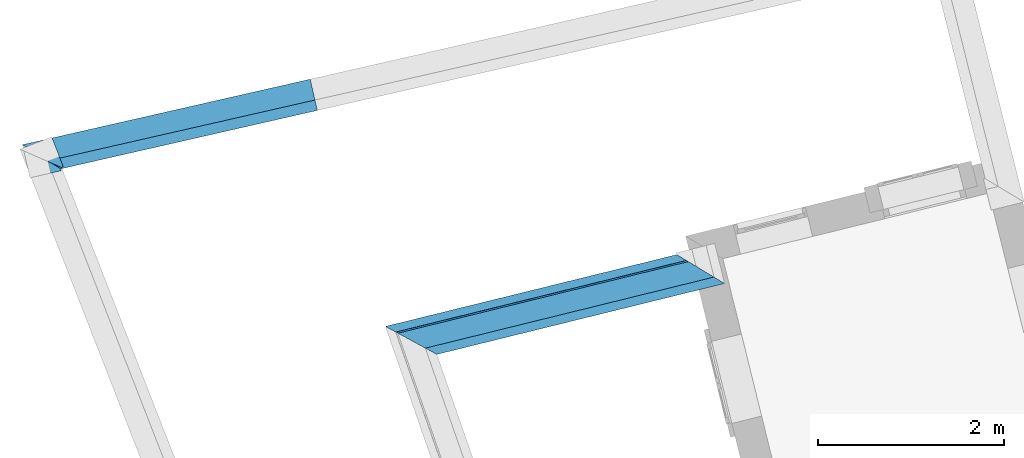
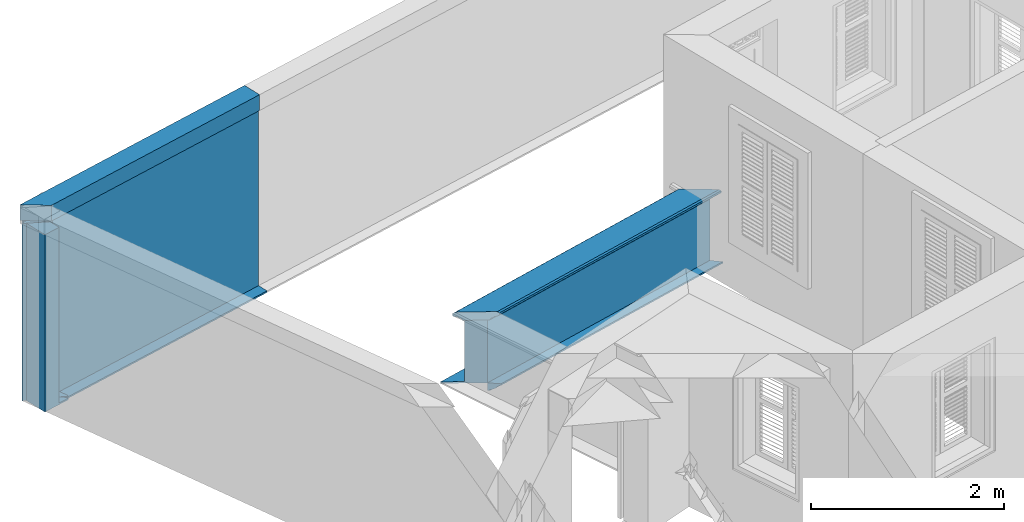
# One storey, part 5 of 8: 7 walls.
"""IFC4 building model written with IfcOpenShell, lengths in metres."""

import ifcopenshell
import ifcopenshell.guid

model = None  # the IFC model being written
_history = None  # IfcOwnerHistory: only IFC2X3 demands one
_inside = {}  # id of a spatial element -> (the spatial element, [elements in it])
_under = {}  # id of a project, library or spatial element -> (it, [spatial elements below it])
_declared = {}  # id of a project -> (the project, [libraries it declares])
_typed = {}  # id of a type object -> (the type object, [elements of that type])
_made_of = {}  # id of a material, layer set ... -> (it, [elements and type objects made of it])


def new_model(schema):
    """Start an empty IFC model of exactly this schema.

    Asked for "IFC4X3", IfcOpenShell would pick the latest addendum, in which some entities
    have other attributes; the version numbers below select the first issue.
    IFC2X3 requires an IfcOwnerHistory on every rooted entity: one is made here for all.
    """
    global model, _history
    if schema == "IFC4X3":
        model = ifcopenshell.file(schema_version=(4, 3, 0, 0))
    else:
        model = ifcopenshell.file(schema=schema)
    _inside.clear()
    _under.clear()
    _declared.clear()
    _typed.clear()
    _made_of.clear()
    _history = None
    if model.schema == "IFC2X3":
        org = make("IfcOrganization", Name="unknown")
        user = make(
            "IfcPersonAndOrganization",
            ThePerson=make("IfcPerson", FamilyName="unknown"),
            TheOrganization=org,
        )
        app = make(
            "IfcApplication",
            ApplicationDeveloper=org,
            Version="unknown",
            ApplicationFullName="unknown",
            ApplicationIdentifier="unknown",
        )
        _history = make(
            "IfcOwnerHistory",
            OwningUser=user,
            OwningApplication=app,
            ChangeAction="ADDED",
            CreationDate=0,
        )
    return model


def make(cls, **values):
    """One entity of the class cls with the attributes given. An attribute that is None is left unset."""
    return model.create_entity(
        cls, **{name: value for name, value in values.items() if value is not None}
    )


def rooted(cls, **values):
    """An entity with a GlobalId (a new one), such as an element, a storey or a relation."""
    return make(cls, GlobalId=ifcopenshell.guid.new(), OwnerHistory=_history, **values)


def si_unit(unit_type, name, prefix=None):
    """IfcSIUnit, for example si_unit("LENGTHUNIT", "METRE", prefix="MILLI")."""
    return make("IfcSIUnit", UnitType=unit_type, Prefix=prefix, Name=name)


def assignment(units):
    """IfcUnitAssignment: the units of a project."""
    return None if units is None else make("IfcUnitAssignment", Units=units)


def point(xyz):
    """IfcCartesianPoint."""
    return None if xyz is None else make("IfcCartesianPoint", Coordinates=xyz)


def direction(xyz):
    """IfcDirection."""
    return None if xyz is None else make("IfcDirection", DirectionRatios=xyz)


def frame(location, z_axis=None, x_axis=None):
    """IfcAxis2Placement3D, a coordinate frame: its origin and axes. An axis left out is left unset."""
    return make(
        "IfcAxis2Placement3D",
        Location=point(location),
        Axis=direction(z_axis),
        RefDirection=direction(x_axis),
    )


def origin_with_axes():
    """The frame at (0, 0, 0) with the z axis (0, 0, 1) and the x axis (1, 0, 0) written out."""
    return frame((0.0, 0.0, 0.0), z_axis=(0.0, 0.0, 1.0), x_axis=(1.0, 0.0, 0.0))


def place(relative_to, where):
    """IfcLocalPlacement: puts the frame where relative to a parent placement (None: the world)."""
    return make(
        "IfcLocalPlacement", PlacementRelTo=relative_to, RelativePlacement=where
    )


def context(
    kind, dimensions, precision=None, world=None, true_north=None, identifier=None
):
    """IfcGeometricRepresentationContext, for example the 3D "Model" context."""
    return make(
        "IfcGeometricRepresentationContext",
        ContextIdentifier=identifier,
        ContextType=kind,
        CoordinateSpaceDimension=dimensions,
        Precision=precision,
        WorldCoordinateSystem=world,
        TrueNorth=true_north,
    )


def subcontext(parent, identifier, kind, view, scale=None):
    """IfcGeometricRepresentationSubContext, for example "Body" below "Model"."""
    return make(
        "IfcGeometricRepresentationSubContext",
        ContextIdentifier=identifier,
        ContextType=kind,
        ParentContext=parent,
        TargetScale=scale,
        TargetView=view,
    )


def project(units=None, contexts=None):
    """IfcProject with its units and contexts."""
    return rooted(
        "IfcProject",
        Name="project",
        RepresentationContexts=contexts,
        UnitsInContext=assignment(units),
    )


def spatial(cls, under=None, at=None, **own):
    """A site, building, storey or space (cls), placed at a placement, below another one or the project."""
    s = rooted(cls, ObjectPlacement=at, **own)
    if under is not None:
        _under.setdefault(under.id(), (under, []))[1].append(s)
    return s


def polyline(points):
    """IfcPolyline through the points."""
    return make("IfcPolyline", Points=[point(p) for p in points])


def outline(outer, holes=None, kind="AREA"):
    """IfcArbitraryClosedProfileDef: a profile drawn as a closed curve; with holes, ...WithVoids."""
    if holes is None:
        return make("IfcArbitraryClosedProfileDef", ProfileType=kind, OuterCurve=outer)
    return make(
        "IfcArbitraryProfileDefWithVoids",
        ProfileType=kind,
        OuterCurve=outer,
        InnerCurves=holes,
    )


def extrude(swept, where, along, depth):
    """IfcExtrudedAreaSolid: the profile swept, set in the frame where, extruded along a direction by depth."""
    return make(
        "IfcExtrudedAreaSolid",
        SweptArea=swept,
        Position=where,
        ExtrudedDirection=direction(along),
        Depth=depth,
    )


def clip(a, b, op="DIFFERENCE"):
    """IfcBooleanClippingResult: the solid a cut by the half space b."""
    return make(
        "IfcBooleanClippingResult", Operator=op, FirstOperand=a, SecondOperand=b
    )


def halfspace(plane, agree):
    """IfcHalfSpaceSolid: all space on one side of the plane z = 0 of the frame plane."""
    return make(
        "IfcHalfSpaceSolid",
        BaseSurface=make("IfcPlane", Position=plane),
        AgreementFlag=agree,
    )


def shape(context_of_items, identifier, shape_type, items):
    """IfcShapeRepresentation: the items that make up one representation, for example the "Body"."""
    return make(
        "IfcShapeRepresentation",
        ContextOfItems=context_of_items,
        RepresentationIdentifier=identifier,
        RepresentationType=shape_type,
        Items=items,
    )


def material_profile(
    of_material, cross_section, Name=None, Category=None, Priority=None
):
    """IfcMaterialProfile: a cross section and its material."""
    return make(
        "IfcMaterialProfile",
        Name=Name,
        Material=of_material,
        Profile=cross_section,
        Priority=Priority,
        Category=Category,
    )


def profile_set(profiles, Name=None, composite=None):
    """IfcMaterialProfileSet."""
    return make(
        "IfcMaterialProfileSet",
        Name=Name,
        MaterialProfiles=profiles,
        CompositeProfile=composite,
    )


def profile_usage(for_profile_set, cardinal=None, extent=None):
    """IfcMaterialProfileSetUsage: how a profile set lies along its element."""
    return make(
        "IfcMaterialProfileSetUsage",
        ForProfileSet=for_profile_set,
        CardinalPoint=cardinal,
        ReferenceExtent=extent,
    )


def made_of(thing, what):
    """Note that an element or type object is made of a material, layer set ...; save() writes the relation."""
    if what is not None:
        _made_of.setdefault(what.id(), (what, []))[1].append(thing)
    return thing


def type_object(cls, material=None, **own):
    """A type object (cls), such as IfcWallType, which elements share."""
    return made_of(rooted(cls, **own), material)


def element(
    cls,
    number,
    at=None,
    inside=None,
    cuts=None,
    type_object=None,
    material=None,
    context=None,
    identifier="Body",
    shape_type=None,
    held_by="IfcProductDefinitionShape",
    body=None,
    shapes=None,
    **own,
):
    """One element of the class cls, such as IfcWall. Its Tag is "e" and its number.

    at: its placement. inside: the storey or other place that contains it. cuts: it is an
    opening in that element (IfcRelVoidsElement). A single representation is given by context,
    identifier, shape_type and body (its items); several are given by shapes. held_by: the class
    of the entity that holds the representations. save() writes the other relations.
    """
    e = rooted(cls, Tag="e%d" % number, ObjectPlacement=at, **own)
    if body is not None:
        shapes = [shape(context, identifier, shape_type, body)]
    if shapes is not None:
        e.Representation = make(held_by, Representations=shapes)
    if inside is not None:
        _inside.setdefault(inside.id(), (inside, []))[1].append(e)
    if cuts is not None:
        rooted(
            "IfcRelVoidsElement", RelatingBuildingElement=cuts, RelatedOpeningElement=e
        )
    if type_object is not None:
        _typed.setdefault(type_object.id(), (type_object, []))[1].append(e)
    return made_of(e, material)


def aggregate(whole, parts):
    """IfcRelAggregates: a whole, such as a stair, and the parts it consists of."""
    return rooted("IfcRelAggregates", RelatingObject=whole, RelatedObjects=parts)


def save(model, path):
    """Write the relations noted so far, then the file.

    IfcRelAggregates (storeys below a building ...), IfcRelContainedInSpatialStructure (elements
    in a storey), IfcRelDefinesByType, IfcRelAssociatesMaterial and IfcRelDeclares: one each for
    every whole, place, type object, material and project.
    """
    for whole, parts in _under.values():
        aggregate(whole, parts)
    for where, things in _inside.values():
        rooted(
            "IfcRelContainedInSpatialStructure",
            RelatedElements=things,
            RelatingStructure=where,
        )
    for kind, things in _typed.values():
        rooted("IfcRelDefinesByType", RelatedObjects=things, RelatingType=kind)
    for what, things in _made_of.values():
        rooted("IfcRelAssociatesMaterial", RelatedObjects=things, RelatingMaterial=what)
    for by, libraries in _declared.values():
        rooted("IfcRelDeclares", RelatingContext=by, RelatedDefinitions=libraries)
    model.write(path)


model = new_model("IFC4")

# Units and contexts
model_context = context("Model", 3, world=origin_with_axes())
body_context = subcontext(model_context, "Body", "Model", "MODEL_VIEW")
ifc_project = project(units=[si_unit("PLANEANGLEUNIT", "RADIAN"), si_unit("MASSUNIT", "GRAM", prefix="KILO"), si_unit("FORCEUNIT", "NEWTON", prefix="KILO"), si_unit("LENGTHUNIT", "METRE"), si_unit("AREAUNIT", "SQUARE_METRE"), si_unit("VOLUMEUNIT", "CUBIC_METRE")], contexts=[model_context, model_context])

# Site, building, storey
site_placement = place(None, origin_with_axes())
site = spatial("IfcSite", under=ifc_project, at=site_placement, Name="Site plot-1", CompositionType="ELEMENT")
building_placement = place(None, origin_with_axes())
building = spatial("IfcBuilding", under=site, at=building_placement, Name="Building plot-1", CompositionType="ELEMENT")
storey_placement = place(None, frame((0.0, 0.0, 2.7), z_axis=(0.0, 0.0, 1.0), x_axis=(1.0, 0.0, 0.0)))
storey = spatial("IfcBuildingStorey", under=building, at=storey_placement, Name="plot-1 1", CompositionType="ELEMENT", Elevation=2.7)

# Walls
ifc_material_profile_1 = material_profile(None, outline(polyline([(0.25, 0.0), (0.25, 2.245), (0.05, 2.245), (0.05, 0.02), (-0.08, 0.02), (-0.08, 0.0), (0.25, 0.0)])))
ifc_profile_set_1 = profile_set([ifc_material_profile_1])
ifc_profile_usage_1 = profile_usage(ifc_profile_set_1)
wall_type_1 = type_object("IfcWallType", Name="parapet street_0", PredefinedType="PARAPET", material=ifc_profile_set_1)
wall_1_placement = place(storey_placement, frame((-6.25392166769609, 24.6400204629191, 0.0), z_axis=(0.975027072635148, 0.222086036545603, 0.0), x_axis=(-0.222086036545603, 0.975027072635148, 0.0)))
element("IfcWall", 1, at=wall_1_placement, inside=storey, type_object=wall_type_1, material=ifc_profile_usage_1, Name="parapet street_0", context=body_context, shape_type="Clipping", body=[
    clip(clip(extrude(outline(polyline([(0.25, 0.0), (0.25, 2.245), (0.05, 2.245), (0.05, 0.02), (-0.08, 0.02), (-0.08, 0.0), (0.25, 0.0)])), origin_with_axes(), (0.0, 0.0, 1.0), 4.91052155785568), halfspace(frame((0.0, 0.0, 3.91052155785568), z_axis=(-1.73807115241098e-14, 0.0, -1.0), x_axis=(0.0, 1.0, 0.0)), True)), halfspace(frame((0.0, 0.0, 1.0), z_axis=(-0.707106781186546, 0.0, -0.707106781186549), x_axis=(0.0, 1.0, 0.0)), False)),
])
ifc_profile_usage_2 = profile_usage(ifc_profile_set_1)
wall_2_placement = place(storey_placement, frame((-5.03459995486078, 23.789576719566, 0.0), z_axis=(-0.222086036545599, 0.975027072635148, 0.0), x_axis=(-0.975027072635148, -0.222086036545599, 0.0)))
element("IfcWall", 2, at=wall_2_placement, inside=storey, type_object=wall_type_1, material=ifc_profile_usage_2, Name="parapet street_0", context=body_context, shape_type="Clipping", body=[
    clip(clip(extrude(outline(polyline([(0.25, 0.0), (0.25, 2.245), (0.05, 2.245), (0.05, 0.02), (-0.08, 0.02), (-0.08, 0.0), (0.25, 0.0)])), origin_with_axes(), (0.0, 0.0, 1.0), 2.1), halfspace(frame((0.0, 0.0, 1.1), z_axis=(0.707106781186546, 0.0, -0.707106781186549), x_axis=(0.0, 1.0, 0.0)), True)), halfspace(frame((0.0, 0.0, 1.0), z_axis=(1.04899068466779e-15, 0.0, -1.0), x_axis=(0.0, 1.0, 0.0)), False)),
])
ifc_material_profile_2 = material_profile(None, outline(polyline([(0.265, 2.245), (0.265, 2.445), (0.035, 2.445), (0.035, 2.245), (0.265, 2.245)])))
ifc_profile_set_2 = profile_set([ifc_material_profile_2])
ifc_profile_usage_3 = profile_usage(ifc_profile_set_2)
wall_type_2 = type_object("IfcWallType", Name="parapet street_1", PredefinedType="PARAPET", material=ifc_profile_set_2)
wall_3_placement = place(storey_placement, frame((-6.25392166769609, 24.6400204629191, 0.0), z_axis=(0.975027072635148, 0.222086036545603, 0.0), x_axis=(-0.222086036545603, 0.975027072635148, 0.0)))
element("IfcWall", 3, at=wall_3_placement, inside=storey, type_object=wall_type_2, material=ifc_profile_usage_3, Name="parapet street_1", context=body_context, shape_type="Clipping", body=[
    clip(clip(extrude(outline(polyline([(0.265, 2.245), (0.265, 2.445), (0.035, 2.445), (0.035, 2.245), (0.265, 2.245)])), origin_with_axes(), (0.0, 0.0, 1.0), 4.91052155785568), halfspace(frame((0.0, 0.0, 3.91052155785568), z_axis=(-1.73807115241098e-14, 0.0, -1.0), x_axis=(0.0, 1.0, 0.0)), True)), halfspace(frame((0.0, 0.0, 1.0), z_axis=(-0.707106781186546, 0.0, -0.707106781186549), x_axis=(0.0, 1.0, 0.0)), False)),
])
ifc_material_profile_3 = material_profile(None, outline(polyline([(0.25, 0.0), (0.25, 2.245), (0.05, 2.245), (0.05, 0.02), (-0.08, 0.02), (-0.08, 0.0), (0.25, 0.0)])))
ifc_profile_set_3 = profile_set([ifc_material_profile_3])
ifc_profile_usage_4 = profile_usage(ifc_profile_set_3)
wall_type_3 = type_object("IfcWallType", Name="parapet party_0", PredefinedType="PARAPET", material=ifc_profile_set_3)
wall_4_placement = place(storey_placement, frame((-6.21055159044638, 24.4987674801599, 0.0), z_axis=(0.931656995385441, 0.363339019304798, 0.0), x_axis=(-0.363339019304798, 0.931656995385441, 0.0)))
element("IfcWall", 4, at=wall_4_placement, inside=storey, type_object=wall_type_3, material=ifc_profile_usage_4, Name="parapet party_0", context=body_context, shape_type="Clipping", body=[
    clip(clip(extrude(outline(polyline([(0.25, 0.0), (0.25, 2.245), (0.05, 2.245), (0.05, 0.02), (-0.08, 0.02), (-0.08, 0.0), (0.25, 0.0)])), origin_with_axes(), (0.0, 0.0, 1.0), 2.1), halfspace(frame((0.0, 0.0, 1.1), z_axis=(3.82856869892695e-16, 0.0, -1.0), x_axis=(0.0, 1.0, 0.0)), True)), halfspace(frame((0.0, 0.0, 1.0), z_axis=(-0.707106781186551, 0.0, -0.707106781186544), x_axis=(0.0, 1.0, 0.0)), False)),
])
ifc_material_profile_4 = material_profile(None, outline(polyline([(0.25, 0.0), (0.25, 0.795), (0.09, 0.795), (0.09, 0.02), (-0.08, 0.02), (-0.08, 0.0), (0.25, 0.0)])))
ifc_profile_set_4 = profile_set([ifc_material_profile_4])
ifc_profile_usage_5 = profile_usage(ifc_profile_set_4)
wall_type_4 = type_object("IfcWallType", Name="parapet internal_0", PredefinedType="PARAPET", material=ifc_profile_set_4)
wall_5_placement = place(storey_placement, frame((2.51228879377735, 24.0602596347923, 0.0), z_axis=(-0.970961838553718, -0.239234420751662, 0.0), x_axis=(0.239234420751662, -0.970961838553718, 0.0)))
element("IfcWall", 5, at=wall_5_placement, inside=storey, type_object=wall_type_4, material=ifc_profile_usage_5, Name="parapet internal_0", context=body_context, shape_type="Clipping", body=[
    clip(clip(extrude(outline(polyline([(0.25, 0.0), (0.25, 0.795), (0.09, 0.795), (0.09, 0.02), (-0.08, 0.02), (-0.08, 0.0), (0.25, 0.0)])), origin_with_axes(), (0.0, 0.0, 1.0), 5.22215081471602), halfspace(frame((0.0, 0.0, 4.22215081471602), z_axis=(-0.73910981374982, 0.0, -0.673584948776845), x_axis=(0.0, 1.0, 0.0)), True)), halfspace(frame((0.0, 0.0, 1.0), z_axis=(-0.707106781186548, 0.0, -0.707106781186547), x_axis=(0.0, 1.0, 0.0)), False)),
])
ifc_material_profile_5 = material_profile(None, outline(polyline([(0.265, 0.795), (0.268, 0.807), (0.274, 0.816), (0.283, 0.822), (0.295, 0.825), (0.295, 0.84), (0.305, 0.84), (0.317, 0.842), (0.326, 0.849), (0.333, 0.858), (0.335, 0.87), (0.333, 0.882), (0.326, 0.891), (0.317, 0.898), (0.305, 0.9), (0.035, 0.9), (0.023, 0.898), (0.014, 0.891), (0.007, 0.882), (0.005, 0.87), (0.007, 0.858), (0.014, 0.849), (0.023, 0.842), (0.035, 0.84), (0.045, 0.84), (0.045, 0.825), (0.057, 0.822), (0.066, 0.816), (0.072, 0.807), (0.075, 0.795), (0.265, 0.795)])))
ifc_profile_set_5 = profile_set([ifc_material_profile_5])
ifc_profile_usage_6 = profile_usage(ifc_profile_set_5)
wall_type_5 = type_object("IfcWallType", Name="parapet internal_1", PredefinedType="PARAPET", material=ifc_profile_set_5)
wall_6_placement = place(storey_placement, frame((2.51228879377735, 24.0602596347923, 0.0), z_axis=(-0.970961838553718, -0.239234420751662, 0.0), x_axis=(0.239234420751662, -0.970961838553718, 0.0)))
element("IfcWall", 6, at=wall_6_placement, inside=storey, type_object=wall_type_5, material=ifc_profile_usage_6, Name="parapet internal_1", context=body_context, shape_type="Clipping", body=[
    clip(clip(extrude(outline(polyline([(0.265, 0.795), (0.268, 0.807), (0.274, 0.816), (0.283, 0.822), (0.295, 0.825), (0.295, 0.84), (0.305, 0.84), (0.317, 0.842), (0.326, 0.849), (0.333, 0.858), (0.335, 0.87), (0.333, 0.882), (0.326, 0.891), (0.317, 0.898), (0.305, 0.9), (0.035, 0.9), (0.023, 0.898), (0.014, 0.891), (0.007, 0.882), (0.005, 0.87), (0.007, 0.858), (0.014, 0.849), (0.023, 0.842), (0.035, 0.84), (0.045, 0.84), (0.045, 0.825), (0.057, 0.822), (0.066, 0.816), (0.072, 0.807), (0.075, 0.795), (0.265, 0.795)])), origin_with_axes(), (0.0, 0.0, 1.0), 5.22215081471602), halfspace(frame((0.0, 0.0, 4.22215081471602), z_axis=(-0.73910981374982, 0.0, -0.673584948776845), x_axis=(0.0, 1.0, 0.0)), True)), halfspace(frame((0.0, 0.0, 1.0), z_axis=(-0.707106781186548, 0.0, -0.707106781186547), x_axis=(0.0, 1.0, 0.0)), False)),
])
ifc_material_profile_6 = material_profile(None, outline(polyline([(0.25, -0.1), (0.265, -0.1), (0.265, -0.085), (0.278, -0.084), (0.289, -0.081), (0.301, -0.074), (0.309, -0.065), (0.315, -0.055), (0.324, -0.044), (0.334, -0.038), (0.345, -0.035), (0.345, -0.015), (0.25, 0.0), (0.25, -0.1)])))
ifc_profile_set_6 = profile_set([ifc_material_profile_6])
ifc_profile_usage_7 = profile_usage(ifc_profile_set_6)
wall_type_6 = type_object("IfcWallType", Name="parapet internal_2", PredefinedType="PARAPET", material=ifc_profile_set_6)
wall_7_placement = place(storey_placement, frame((2.51228879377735, 24.0602596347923, 0.0), z_axis=(-0.970961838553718, -0.239234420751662, 0.0), x_axis=(0.239234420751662, -0.970961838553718, 0.0)))
element("IfcWall", 7, at=wall_7_placement, inside=storey, type_object=wall_type_6, material=ifc_profile_usage_7, Name="parapet internal_2", context=body_context, shape_type="Clipping", body=[
    clip(clip(extrude(outline(polyline([(0.25, -0.1), (0.265, -0.1), (0.265, -0.085), (0.278, -0.084), (0.289, -0.081), (0.301, -0.074), (0.309, -0.065), (0.315, -0.055), (0.324, -0.044), (0.334, -0.038), (0.345, -0.035), (0.345, -0.015), (0.25, 0.0), (0.25, -0.1)])), origin_with_axes(), (0.0, 0.0, 1.0), 5.22215081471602), halfspace(frame((0.0, 0.0, 4.22215081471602), z_axis=(-0.73910981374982, 0.0, -0.673584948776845), x_axis=(0.0, 1.0, 0.0)), True)), halfspace(frame((0.0, 0.0, 1.0), z_axis=(-0.707106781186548, 0.0, -0.707106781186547), x_axis=(0.0, 1.0, 0.0)), False)),
])

save(model, "model.ifc")
